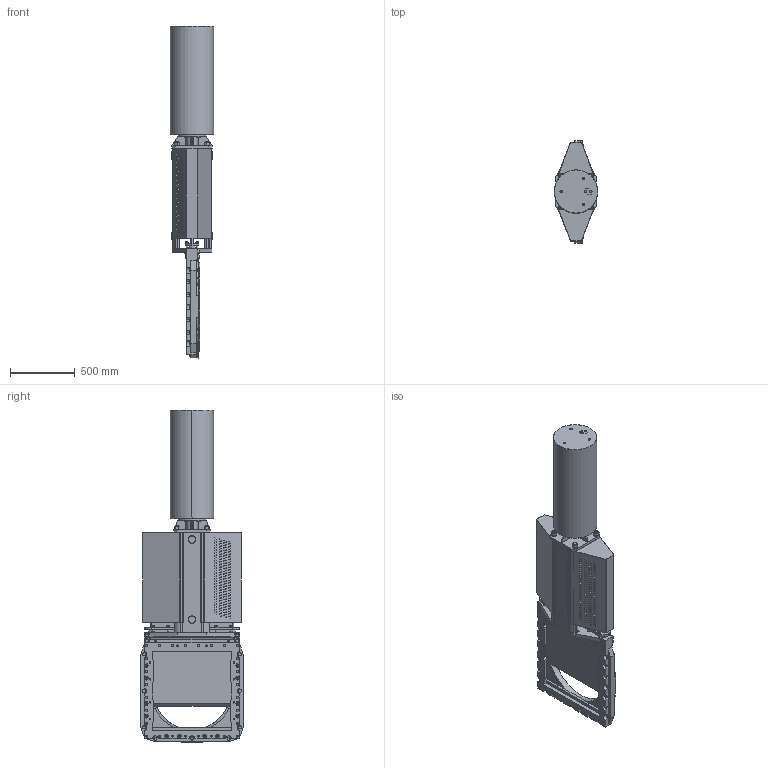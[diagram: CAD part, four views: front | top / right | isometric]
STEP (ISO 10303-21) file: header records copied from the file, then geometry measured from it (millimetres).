
FILE_DESCRIPTION(('STEP AP203'),'1');
FILE_NAME('F:/Alexander/tillfällig/RKO-DN600-EC320.stp','2013-04-11T09:40:10',(' '),(' '),'Spatial InterOp 3D',' ',' ');
FILE_SCHEMA(('CONFIG_CONTROL_DESIGN'));
Length unit declared in the file: millimetre
Products named in the file (3): 1; 2; 3
Bounding box: 336 x 792 x 2570 mm (x, y, z)
Volume: 125302586.5 mm3; surface area: 8773673.4 mm2
Topology: 3 solids, 42 shells, 4060 faces, 10516 edges, 6783 vertices
Faces by surface type: cylinder 1795, plane 1611, cone 622, torus 28, bspline 4
Entity records: 127697 total; most frequent: CARTESIAN_POINT 26108, DIRECTION 22015, ORIENTED_EDGE 21008, EDGE_CURVE 10504, AXIS2_PLACEMENT_3D 8432, VERTEX_POINT 6783, LINE 5151, VECTOR 5151
